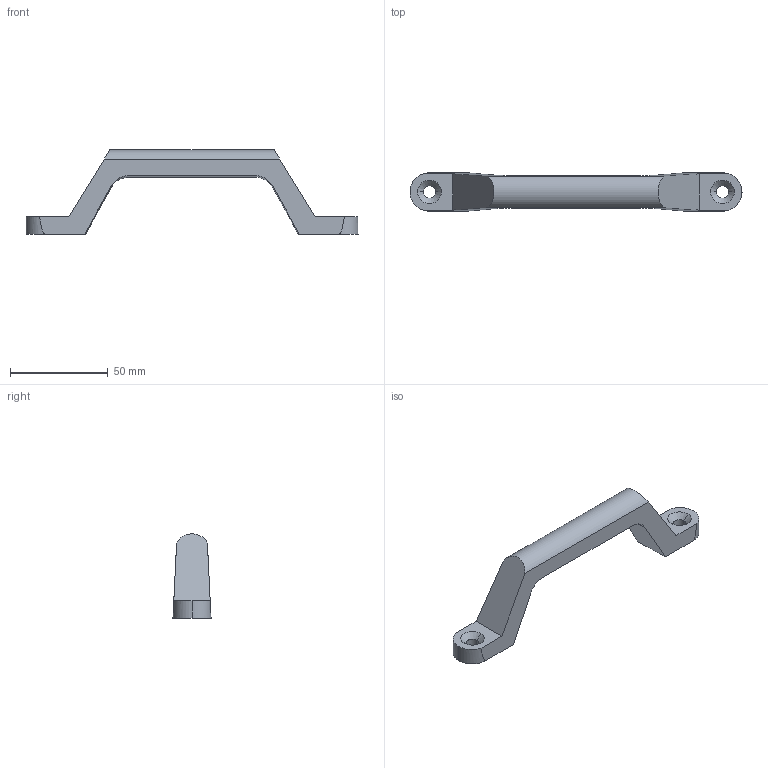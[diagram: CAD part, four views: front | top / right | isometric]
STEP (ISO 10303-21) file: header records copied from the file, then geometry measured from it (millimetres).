
FILE_DESCRIPTION (( 'STEP AP203' ), '1' );
FILE_NAME ('XG01-040-2.STEP', '2024-03-13T00:24:34', ( '' ), ( '' ), 'SwSTEP 2.0', 'SolidWorks 2020', '' );
FILE_SCHEMA (( 'CONFIG_CONTROL_DESIGN' ));
Length unit declared in the file: millimetre
Products named in the file (1): XG01-040-2
Bounding box: 170 x 19.5 x 43.23 mm (x, y, z)
Volume: 37588.5 mm3; surface area: 11623.4 mm2
Topology: 1 solids, 1 shells, 25 faces, 65 edges, 42 vertices
Faces by surface type: plane 11, cylinder 10, cone 4
Entity records: 852 total; most frequent: CARTESIAN_POINT 157, ORIENTED_EDGE 130, DIRECTION 129, EDGE_CURVE 65, AXIS2_PLACEMENT_3D 46, VERTEX_POINT 42, VECTOR 37, LINE 37
